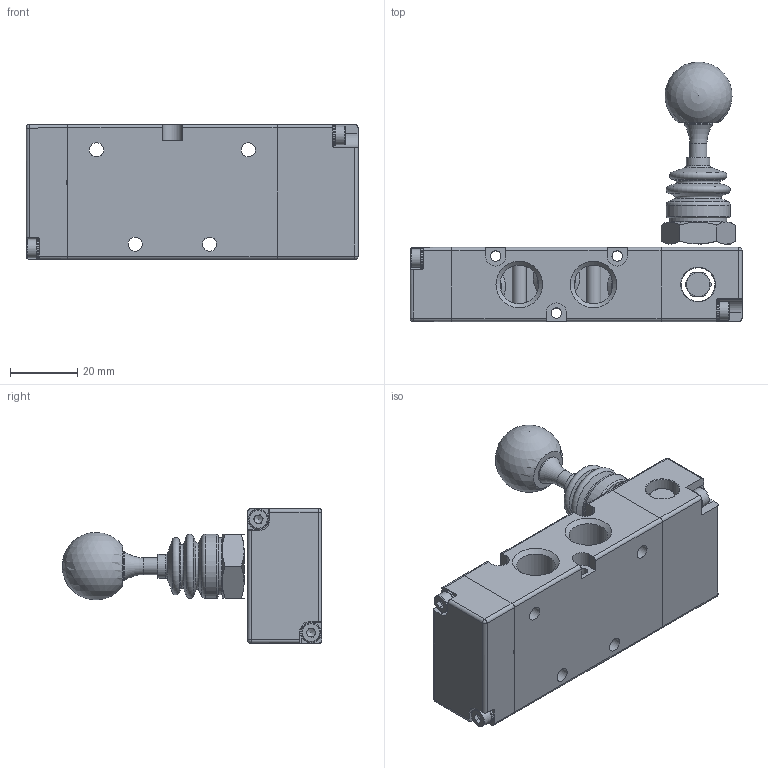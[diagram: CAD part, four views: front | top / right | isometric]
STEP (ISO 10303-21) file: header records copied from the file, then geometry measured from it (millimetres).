
FILE_DESCRIPTION (( 'STEP AP214' ), '1' );
FILE_NAME ('282406.STEP', '2013-09-17T14:32:06', ( 'ST01' ), ( '' ), 'SwSTEP 2.0', 'SolidWorks 2012', '' );
FILE_SCHEMA (( 'AUTOMOTIVE_DESIGN' ));
Length unit declared in the file: millimetre
Products named in the file (1): 282406
Bounding box: 98.4 x 76.92 x 40 mm (x, y, z)
Surface area: 22177.7 mm2 (no closed solid volume)
Topology: 0 solids, 18 shells, 220 faces, 642 edges, 419 vertices
Faces by surface type: plane 93, cylinder 67, cone 32, torus 23, sphere 5
Full cylindrical faces by diameter (mm): 3 x1, 3.1 x3, 4.2 x4, 5 x1, 5.5 x4, 7 x1, 8.5 x1, 10 x2, 11.445 x5, 16.9 x1, 19 x1
Entity records: 9824 total; most frequent: CARTESIAN_POINT 1957, DIRECTION 1147, ORIENTED_EDGE 949, EDGE_CURVE 573, AXIS2_PLACEMENT_3D 433, VERTEX_POINT 408, EDGE_LOOP 309, VECTOR 281
